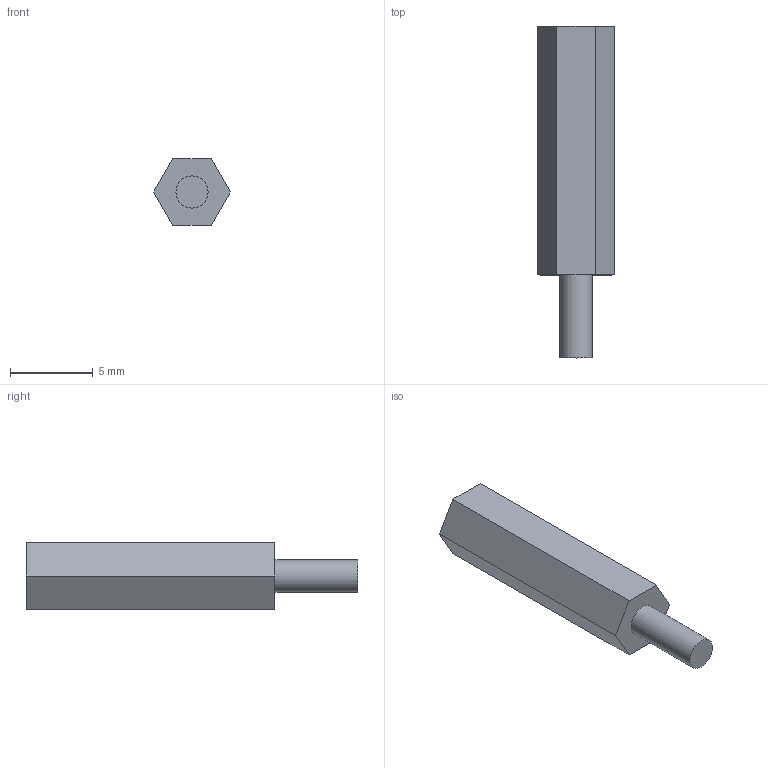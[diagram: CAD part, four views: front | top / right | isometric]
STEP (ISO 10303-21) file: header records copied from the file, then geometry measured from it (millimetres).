
FILE_DESCRIPTION(/* description */ (''),/* implementation_level */ '2;1');
FILE_NAME(/* name */ 'C:/Users/priba/Documents/Temp/mrm-spac15m2nyl.step',/* time_stamp */ '2020-04-08T14:19:18+02:00',/* author */ (''),/* organization */ (''),/* preprocessor_version */ 'ST-DEVELOPER v18',/* originating_system */ 'Autodesk Translation Framework v8.12.0.6',/* authorisation */ '');
FILE_SCHEMA (('AUTOMOTIVE_DESIGN { 1 0 10303 214 3 1 1 }'));
Length unit declared in the file: millimetre
Products named in the file (1): mrm-spac15m2nyl
Bounding box: 4.62 x 20 x 4 mm (x, y, z)
Volume: 209.3 mm3; surface area: 291.6 mm2
Topology: 1 solids, 1 shells, 12 faces, 28 edges, 19 vertices
Faces by surface type: plane 9, cylinder 2, cone 1
Full cylindrical faces by diameter (mm): 1.933 x1, 2 x1
Entity records: 374 total; most frequent: DIRECTION 59, CARTESIAN_POINT 59, ORIENTED_EDGE 54, EDGE_CURVE 27, LINE 21, VECTOR 21, VERTEX_POINT 19, AXIS2_PLACEMENT_3D 19
